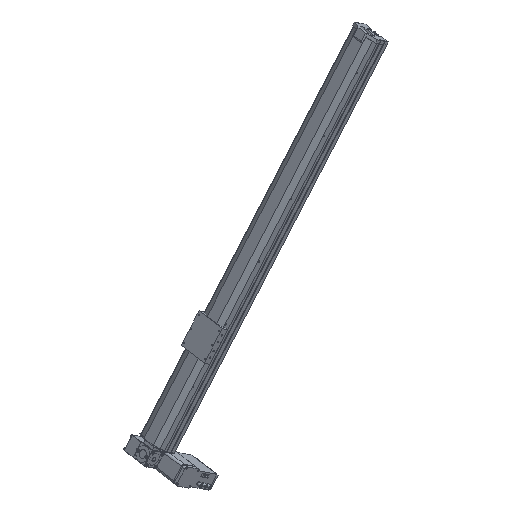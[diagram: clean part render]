
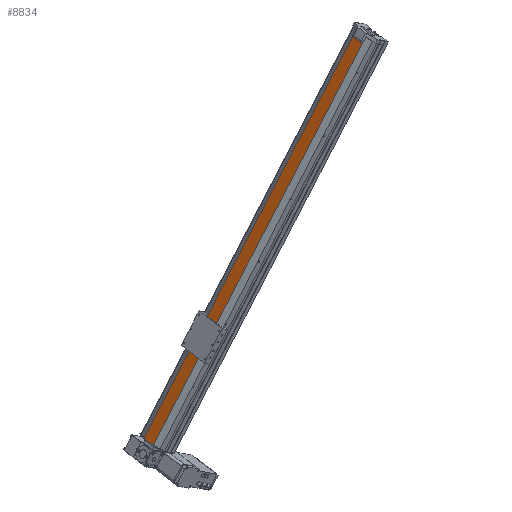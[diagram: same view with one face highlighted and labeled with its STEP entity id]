
A CAD part, left-side view. The second image highlights one B-rep face of the part: STEP entity #8834.
In plain terms, the highlighted planar face has unit normal (-0.767, 0.63, 0.121) as drawn and (0, 1, 0) by its records, which use the part's own axes.
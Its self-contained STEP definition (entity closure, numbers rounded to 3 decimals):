
#806 = CARTESIAN_POINT ( 'NONE',  ( 20., 61.75, 0. ) ) ;
#8832 = ORIENTED_EDGE ( 'NONE', *, *, #8844, .T. ) ;
#8834 = ADVANCED_FACE ( 'NONE', ( #21242 ), #21241, .F. ) ;
#8835 = ORIENTED_EDGE ( 'NONE', *, *, #8836, .F. ) ;
#8836 = EDGE_CURVE ( 'NONE', #8837, #8918, #21185, .T. ) ;
#8837 = VERTEX_POINT ( 'NONE', #21189 ) ;
#8844 = EDGE_CURVE ( 'NONE', #26779, #8918, #21221, .T. ) ;
#8849 = ORIENTED_EDGE ( 'NONE', *, *, #8906, .F. ) ;
#8867 = EDGE_LOOP ( 'NONE', ( #8832, #8835, #8849, #8910 ) ) ;
#8905 = VERTEX_POINT ( 'NONE', #21298 ) ;
#8906 = EDGE_CURVE ( 'NONE', #8905, #8837, #21286, .T. ) ;
#8908 = EDGE_CURVE ( 'NONE', #8905, #26779, #20318, .T. ) ;
#8910 = ORIENTED_EDGE ( 'NONE', *, *, #8908, .T. ) ;
#8918 = VERTEX_POINT ( 'NONE', #21337 ) ;
#20297 = DIRECTION ( 'NONE',  ( 0., 0., -1. ) ) ;
#20298 = VECTOR ( 'NONE', #20297, 1000. ) ;
#20299 = CARTESIAN_POINT ( 'NONE',  ( 20., 61.75, 1300. ) ) ;
#20318 = LINE ( 'NONE', #20299, #20298 ) ;
#21185 = LINE ( 'NONE', #21236, #21235 ) ;
#21189 = CARTESIAN_POINT ( 'NONE',  ( -20., 61.75, 1300. ) ) ;
#21217 = VECTOR ( 'NONE', #21230, 1000. ) ;
#21221 = LINE ( 'NONE', #21231, #21217 ) ;
#21230 = DIRECTION ( 'NONE',  ( -1., 0., 0. ) ) ;
#21231 = CARTESIAN_POINT ( 'NONE',  ( 20., 61.75, 0. ) ) ;
#21234 = DIRECTION ( 'NONE',  ( 0., 0., -1. ) ) ;
#21235 = VECTOR ( 'NONE', #21234, 1000. ) ;
#21236 = CARTESIAN_POINT ( 'NONE',  ( -20., 61.75, 1300. ) ) ;
#21237 = DIRECTION ( 'NONE',  ( 0., 0., -1. ) ) ;
#21238 = DIRECTION ( 'NONE',  ( 0., -1., 0. ) ) ;
#21239 = CARTESIAN_POINT ( 'NONE',  ( 20., 61.75, 1300. ) ) ;
#21240 = AXIS2_PLACEMENT_3D ( 'NONE', #21239, #21238, #21237 ) ;
#21241 = PLANE ( 'NONE',  #21240 ) ;
#21242 = FACE_OUTER_BOUND ( 'NONE', #8867, .T. ) ;
#21283 = DIRECTION ( 'NONE',  ( -1., 0., 0. ) ) ;
#21284 = VECTOR ( 'NONE', #21283, 1000. ) ;
#21285 = CARTESIAN_POINT ( 'NONE',  ( 20., 61.75, 1300. ) ) ;
#21286 = LINE ( 'NONE', #21285, #21284 ) ;
#21298 = CARTESIAN_POINT ( 'NONE',  ( 20., 61.75, 1300. ) ) ;
#21337 = CARTESIAN_POINT ( 'NONE',  ( -20., 61.75, 0. ) ) ;
#26779 = VERTEX_POINT ( 'NONE', #806 ) ;
